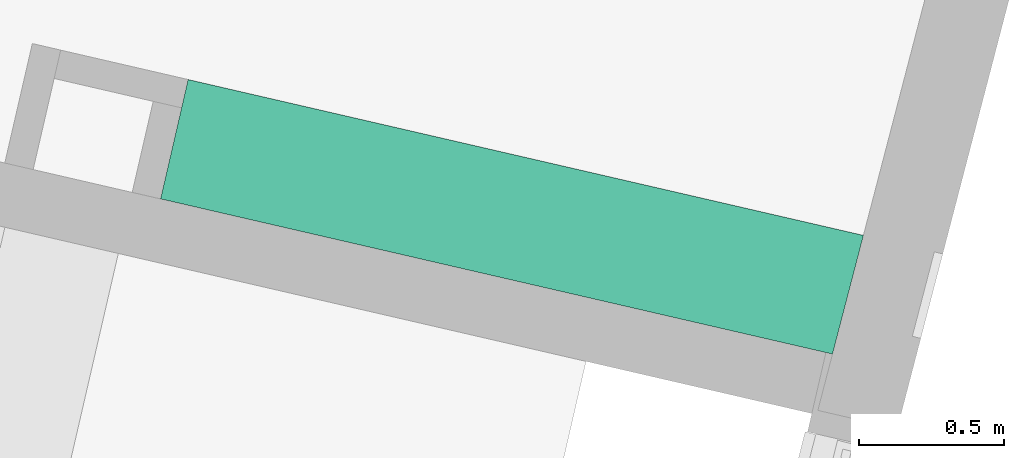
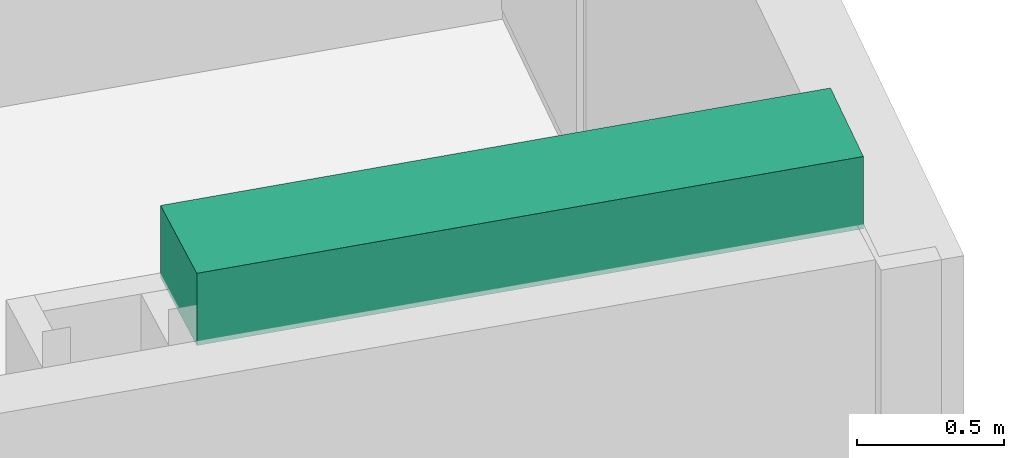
# One storey, part 114 of 119: 1 distribution chamber element.
"""IFC2X3 building model written with IfcOpenShell, lengths in metres."""

from ifc_helpers import new_model, entity, si_unit, converted_unit, derived_unit, money_unit, direction, frame, origin_with_axes, place, context, subcontext, project, spatial, faceted_brep, material, type_object, element, save


model = new_model("IFC2X3")

# Units and contexts
model_context = context("Model", 3, precision=1e-05, world=origin_with_axes(), true_north=direction((0.0, 1.0)))
body_context = subcontext(model_context, "Body", "Model", "MODEL_VIEW")
ifc_project = project(units=[si_unit("LENGTHUNIT", "METRE"), si_unit("AREAUNIT", "SQUARE_METRE"), si_unit("VOLUMEUNIT", "CUBIC_METRE"), converted_unit("PLANEANGLEUNIT", "DEGREE", entity("IfcPlaneAngleMeasure", 0.0174532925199), si_unit("PLANEANGLEUNIT", "RADIAN"), dimensions=[0, 0, 0, 0, 0, 0, 0]), si_unit("SOLIDANGLEUNIT", "STERADIAN"), money_unit("EUR"), converted_unit("TIMEUNIT", "Year", entity("IfcTimeMeasure", 31556926.0), si_unit("TIMEUNIT", "SECOND"), dimensions=[0, 0, 1, 0, 0, 0, 0]), si_unit("MASSUNIT", "GRAM", prefix="KILO"), si_unit("THERMODYNAMICTEMPERATUREUNIT", "DEGREE_CELSIUS"), si_unit("LUMINOUSINTENSITYUNIT", "LUMEN"), si_unit("ENERGYUNIT", "JOULE", prefix="MEGA"), derived_unit("THERMALCONDUCTANCEUNIT", [(si_unit("POWERUNIT", "WATT"), 1), (si_unit("LENGTHUNIT", "METRE"), -1), (si_unit("THERMODYNAMICTEMPERATUREUNIT", "KELVIN"), -1)]), derived_unit("SPECIFICHEATCAPACITYUNIT", [(si_unit("ENERGYUNIT", "JOULE"), 1), (si_unit("MASSUNIT", "GRAM", prefix="KILO"), -1), (si_unit("THERMODYNAMICTEMPERATUREUNIT", "KELVIN"), -1)]), derived_unit("MASSDENSITYUNIT", [(si_unit("MASSUNIT", "GRAM", prefix="KILO"), 1), (si_unit("VOLUMEUNIT", "CUBIC_METRE"), -1)])], contexts=[model_context])

# Site, building, storey
site_placement = place(None, origin_with_axes())
site = spatial("IfcSite", under=ifc_project, at=site_placement, Name="Site", CompositionType="ELEMENT")
building_placement = place(site_placement, origin_with_axes())
building = spatial("IfcBuilding", under=site, at=building_placement, Name="Bâtiment", CompositionType="ELEMENT")
storey_placement = place(building_placement, origin_with_axes())
storey = spatial("IfcBuildingStorey", under=building, at=storey_placement, Name="Rez-de-chaussée", CompositionType="ELEMENT", Elevation=0.0)

# Distribution chamber element
ifc_material = material(Name="Finition int - Plaque de plâtre")
distribution_chamber_element_type = type_object("IfcDistributionChamberElementType", Name="Finition int - Plaque de plâtre 300", PredefinedType="FORMEDDUCT")
distribution_chamber_element_placement = place(storey_placement, frame((-2.84085763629, -10.2603331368, 2.5), z_axis=(0.0, 0.0, 1.0), x_axis=(1.0, 0.0, 0.0)))
element("IfcDistributionChamberElement", 1, at=distribution_chamber_element_placement, inside=storey, type_object=distribution_chamber_element_type, material=ifc_material, Name="Dalle_004", ObjectType="FORMEDDUCT", context=body_context, shape_type="Brep", body=[
    faceted_brep([(-0.094678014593, -0.410239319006, 0.0), (2.21465439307, -0.943554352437, 0.0), (2.3209391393, -0.535643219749, 0.0), (0.0, 0.0, 0.0), (2.21465439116, -0.943554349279, -0.3), (2.21465439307, -0.943554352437, -0.28), (-0.094678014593, -0.410239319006, -0.3), (2.32093914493, -0.53564322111, -0.28), (2.32093914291, -0.535643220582, -0.3), (0.0, 0.0, -0.3)], [[[0, 1, 2, 3]], [[4, 5, 1, 0, 6]], [[5, 7, 2, 1]], [[3, 2, 7, 8, 9]], [[0, 3, 9, 6]], [[8, 7, 5, 4]], [[8, 4, 6, 9]]]),
])

save(model, "model.ifc")
